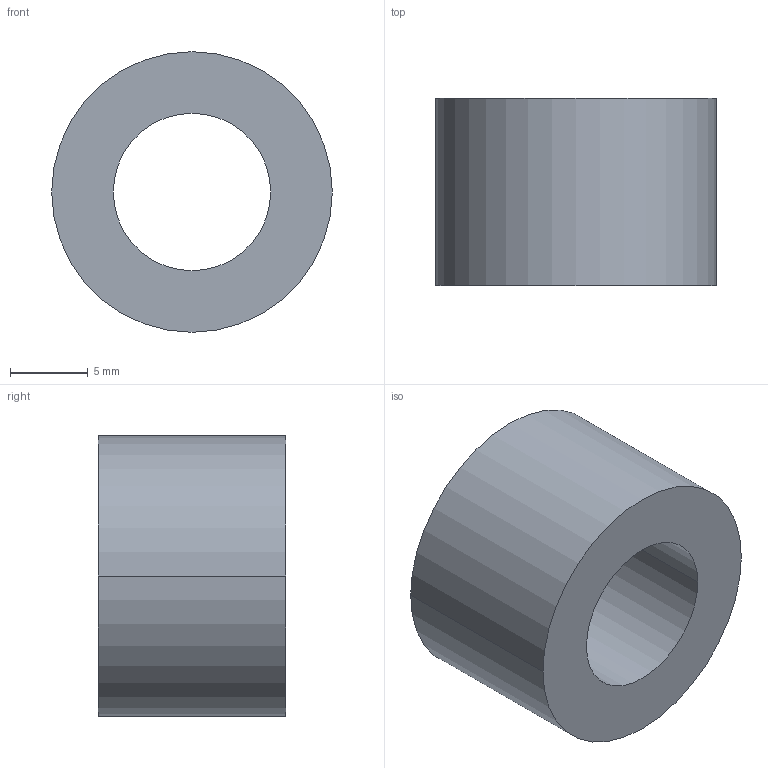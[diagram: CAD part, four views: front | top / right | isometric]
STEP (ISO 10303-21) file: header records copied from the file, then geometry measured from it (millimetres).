
FILE_DESCRIPTION (( 'STEP AP203' ), '1' );
FILE_NAME ('30800.WPP18E10.1.step', '2019-01-23T22:34:13', ( '' ), ( '' ), 'SwSTEP 2.0', 'SolidWorks 2017', '' );
FILE_SCHEMA (( 'CONFIG_CONTROL_DESIGN' ));
Length unit declared in the file: millimetre
Products named in the file (1): 30800.WPP18E10.1
Bounding box: 18 x 12 x 18 mm (x, y, z)
Volume: 2062.6 mm3; surface area: 1382.6 mm2
Topology: 1 solids, 1 shells, 8 faces, 16 edges, 10 vertices
Faces by surface type: cylinder 4, torus 2, plane 2
Entity records: 297 total; most frequent: DIRECTION 46, CARTESIAN_POINT 35, ORIENTED_EDGE 32, AXIS2_PLACEMENT_3D 21, EDGE_CURVE 16, CIRCLE 12, EDGE_LOOP 10, VERTEX_POINT 10
